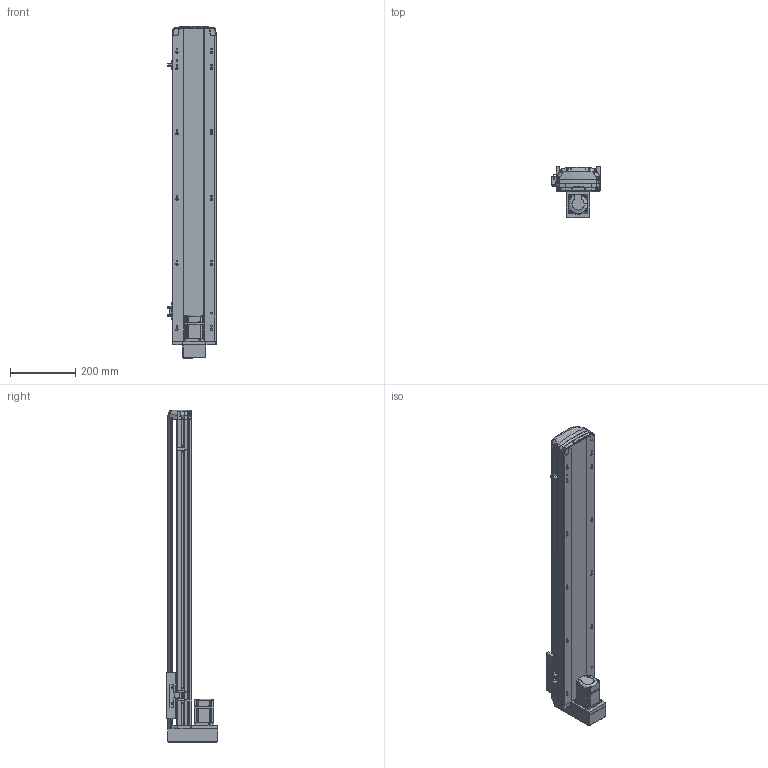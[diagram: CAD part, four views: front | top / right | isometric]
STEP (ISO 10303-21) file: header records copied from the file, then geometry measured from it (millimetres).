
FILE_DESCRIPTION (( 'STEP AP214' ), '1' );
FILE_NAME ('RTH14-XX-750-M-M20-C4.STEP', '2025-10-25T02:50:55', ( 'Microsoft' ), ( 'Microsoft' ), 'SwSTEP 2.0', 'SolidWorks 2018', '' );
FILE_SCHEMA (( 'AUTOMOTIVE_DESIGN' ));
Length unit declared in the file: millimetre
Products named in the file (10): N_RTH14-R-004-SFSR16賑釱^RTH14-XX-XX-M-M20-C4; N_MSMD022P1AA_200W^RTH14-XX-XX-M-M20-C4; N_RTH14-GY-001P^RTH14-XX-XX-M-M20-C4; N_RTH14-M-007P奻裔^RTH14-XX-XX-M-M20-C4; N_OMRON EE-SX672 传感器^RTH14-XX-XX-M-M20-C4; N_RTH13-L-012感应片（外置）^RTH14-XX-XX-M-M20-C4; RTH14-XX-750-M-M20-C4; N_RTH14-M-011P菁釱^RTH14-XX-XX-M-M20-C4; N_RTH13-M-018裔赽^RTH14-XX-XX-M-M20-C4; N_RTH13-M-008萇儂啣狟殏^RTH14-XX-XX-M-M20-C4
Assembly tree (11 placements, depth 2):
  RTH14-XX-750-M-M20-C4
    N_RTH14-M-011P菁釱^RTH14-XX-XX-M-M20-C4
    N_RTH14-M-007P奻裔^RTH14-XX-XX-M-M20-C4
    N_MSMD022P1AA_200W^RTH14-XX-XX-M-M20-C4
    N_RTH13-M-008萇儂啣狟殏^RTH14-XX-XX-M-M20-C4
    N_RTH13-M-018裔赽^RTH14-XX-XX-M-M20-C4
    N_RTH13-L-012感应片（外置）^RTH14-XX-XX-M-M20-C4
    N_OMRON EE-SX672 传感器^RTH14-XX-XX-M-M20-C4  x3
    N_RTH14-R-004-SFSR16賑釱^RTH14-XX-XX-M-M20-C4
    N_RTH14-GY-001P^RTH14-XX-XX-M-M20-C4
Bounding box: 148.5 x 156.5 x 1017.49 mm (x, y, z)
Volume: 4481677.9 mm3; surface area: 1030876.4 mm2
Topology: 11 solids, 11 shells, 1889 faces, 5282 edges, 3460 vertices
Faces by surface type: plane 997, cylinder 498, bspline 345, cone 45, torus 4
Entity records: 57764 total; most frequent: CARTESIAN_POINT 23173, ORIENTED_EDGE 7632, DIRECTION 6149, EDGE_CURVE 3816, VERTEX_POINT 2496, VECTOR 2187, LINE 2187, AXIS2_PLACEMENT_3D 1981
